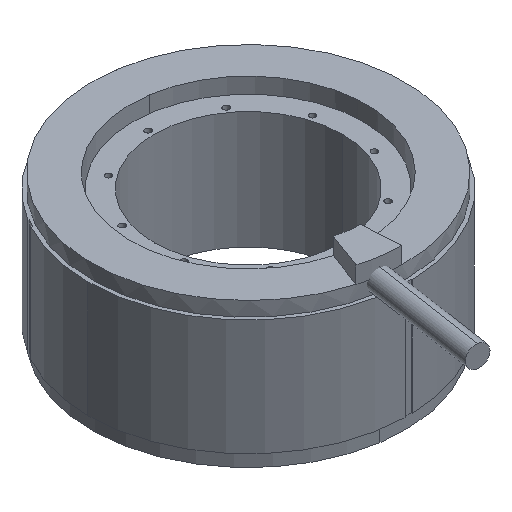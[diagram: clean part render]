
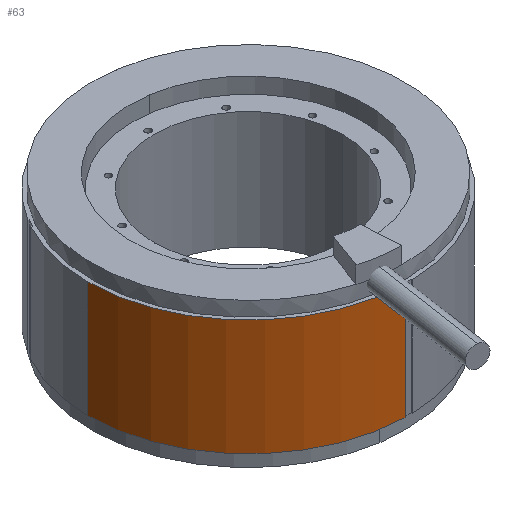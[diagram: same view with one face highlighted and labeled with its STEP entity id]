
A CAD part, isometric view. The second image highlights one B-rep face of the part: STEP entity #63.
In plain terms, the highlighted cylindrical face has radius 66.5 mm (diameter 133 mm), a partial arc.
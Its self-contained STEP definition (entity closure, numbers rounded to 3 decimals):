
#39 = CARTESIAN_POINT ( 'NONE',  ( 13.594, 48.432, 145.712 ) ) ;
#63 = ADVANCED_FACE ( 'NONE', ( #1764 ), #3270, .T. ) ;
#75 = ORIENTED_EDGE ( 'NONE', *, *, #2343, .F. ) ;
#121 = DIRECTION ( 'NONE',  ( 0., 0., -1. ) ) ;
#160 = CARTESIAN_POINT ( 'NONE',  ( 15.119, 114.914, 145.712 ) ) ;
#235 = CARTESIAN_POINT ( 'NONE',  ( 15.119, 114.914, 225.712 ) ) ;
#385 = DIRECTION ( 'NONE',  ( 0., 0., 1. ) ) ;
#464 = DIRECTION ( 'NONE',  ( 0., 0., -1. ) ) ;
#605 = CARTESIAN_POINT ( 'NONE',  ( 13.594, 48.432, 390.109 ) ) ;
#637 = CARTESIAN_POINT ( 'NONE',  ( -51.381, 114.914, 225.712 ) ) ;
#742 = CIRCLE ( 'NONE', #1518, 66.5 ) ;
#747 = DIRECTION ( 'NONE',  ( 0., 0., 1. ) ) ;
#766 = ORIENTED_EDGE ( 'NONE', *, *, #1584, .T. ) ;
#869 = EDGE_LOOP ( 'NONE', ( #2606, #75, #2357, #766 ) ) ;
#950 = LINE ( 'NONE', #637, #2787 ) ;
#967 = VECTOR ( 'NONE', #121, 1000. ) ;
#1383 = VERTEX_POINT ( 'NONE', #2744 ) ;
#1518 = AXIS2_PLACEMENT_3D ( 'NONE', #3200, #464, #1954 ) ;
#1584 = EDGE_CURVE ( 'NONE', #1802, #1383, #742, .T. ) ;
#1617 = VERTEX_POINT ( 'NONE', #39 ) ;
#1754 = EDGE_CURVE ( 'NONE', #1802, #1617, #2385, .T. ) ;
#1764 = FACE_OUTER_BOUND ( 'NONE', #869, .T. ) ;
#1786 = VERTEX_POINT ( 'NONE', #1854 ) ;
#1802 = VERTEX_POINT ( 'NONE', #2869 ) ;
#1854 = CARTESIAN_POINT ( 'NONE',  ( -51.381, 114.914, 145.712 ) ) ;
#1937 = AXIS2_PLACEMENT_3D ( 'NONE', #160, #2107, #2873 ) ;
#1954 = DIRECTION ( 'NONE',  ( 1., 0., 0. ) ) ;
#1991 = AXIS2_PLACEMENT_3D ( 'NONE', #235, #747, #2250 ) ;
#2107 = DIRECTION ( 'NONE',  ( 0., 0., -1. ) ) ;
#2250 = DIRECTION ( 'NONE',  ( -1., 0., 0. ) ) ;
#2343 = EDGE_CURVE ( 'NONE', #1617, #1786, #2903, .T. ) ;
#2357 = ORIENTED_EDGE ( 'NONE', *, *, #1754, .F. ) ;
#2385 = LINE ( 'NONE', #605, #967 ) ;
#2606 = ORIENTED_EDGE ( 'NONE', *, *, #2803, .F. ) ;
#2744 = CARTESIAN_POINT ( 'NONE',  ( -51.381, 114.914, 193.712 ) ) ;
#2787 = VECTOR ( 'NONE', #385, 1000. ) ;
#2803 = EDGE_CURVE ( 'NONE', #1786, #1383, #950, .T. ) ;
#2869 = CARTESIAN_POINT ( 'NONE',  ( 13.594, 48.432, 193.712 ) ) ;
#2873 = DIRECTION ( 'NONE',  ( 1., 0., 0. ) ) ;
#2903 = CIRCLE ( 'NONE', #1937, 66.5 ) ;
#3200 = CARTESIAN_POINT ( 'NONE',  ( 15.119, 114.914, 193.712 ) ) ;
#3270 = CYLINDRICAL_SURFACE ( 'NONE', #1991, 66.5 ) ;
